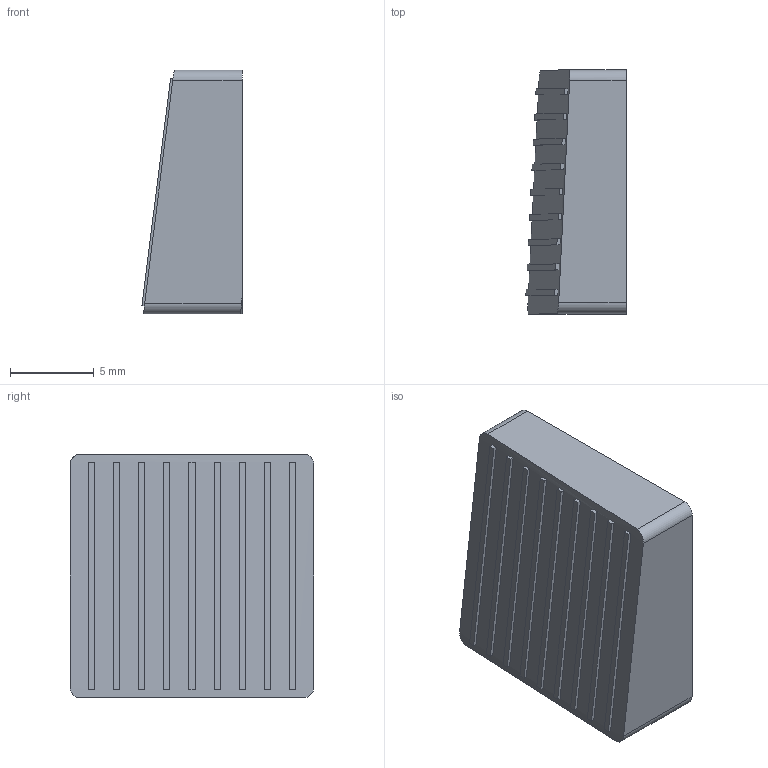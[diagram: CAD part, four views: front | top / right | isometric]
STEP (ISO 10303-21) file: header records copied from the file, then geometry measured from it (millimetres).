
FILE_DESCRIPTION(('Open CASCADE Model'),'2;1');
FILE_NAME('Open CASCADE Shape Model','2026-10-28T00:37:55',('Author'),( 'Open CASCADE'),'Open CASCADE STEP processor 7.8','Open CASCADE 7.8' ,'Unknown');
FILE_SCHEMA(('AUTOMOTIVE_DESIGN { 1 0 10303 214 1 1 1 1 }'));
Length unit declared in the file: millimetre
Products named in the file (1): Open CASCADE STEP translator 7.8 9
Bounding box: 6 x 14.6 x 14.6 mm (x, y, z)
Volume: 1001.8 mm3; surface area: 743.4 mm2
Topology: 1 solids, 1 shells, 56 faces, 135 edges, 90 vertices
Faces by surface type: plane 41, bspline 11, cylinder 4
Entity records: 18255 total; most frequent: CARTESIAN_POINT 15993, ORIENTED_EDGE 270, PCURVE 270, DEFINITIONAL_REPRESENTATION 270, B_SPLINE_CURVE_WITH_KNOTS 260, DIRECTION 240, LINE 139, VECTOR 139
